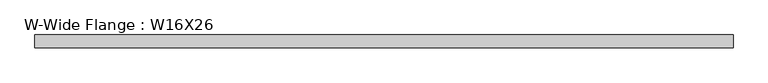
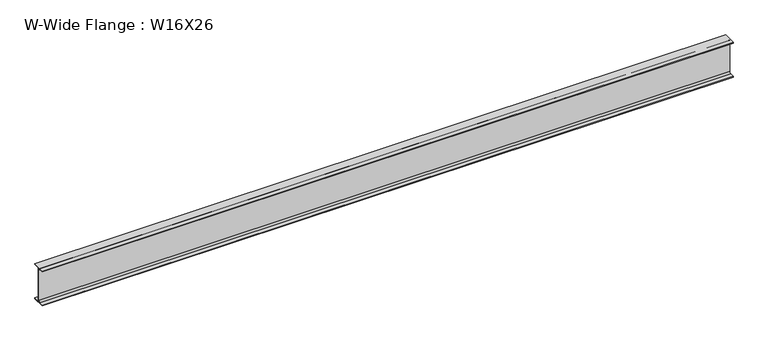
"""IFC4 building model written with IfcOpenShell, lengths in millimetres: beam geometry, W-Wide Flange : W16X26."""

import ifcopenshell
import ifcopenshell.guid

model = None  # the IFC model being written
_history = None  # IfcOwnerHistory: only IFC2X3 demands one
_inside = {}  # id of a spatial element -> (the spatial element, [elements in it])
_under = {}  # id of a project, library or spatial element -> (it, [spatial elements below it])
_declared = {}  # id of a project -> (the project, [libraries it declares])
_typed = {}  # id of a type object -> (the type object, [elements of that type])
_made_of = {}  # id of a material, layer set ... -> (it, [elements and type objects made of it])


def new_model(schema):
    """Start an empty IFC model of exactly this schema.

    Asked for "IFC4X3", IfcOpenShell would pick the latest addendum, in which some entities
    have other attributes; the version numbers below select the first issue.
    IFC2X3 requires an IfcOwnerHistory on every rooted entity: one is made here for all.
    """
    global model, _history
    if schema == "IFC4X3":
        model = ifcopenshell.file(schema_version=(4, 3, 0, 0))
    else:
        model = ifcopenshell.file(schema=schema)
    _inside.clear()
    _under.clear()
    _declared.clear()
    _typed.clear()
    _made_of.clear()
    _history = None
    if model.schema == "IFC2X3":
        org = make("IfcOrganization", Name="unknown")
        user = make(
            "IfcPersonAndOrganization",
            ThePerson=make("IfcPerson", FamilyName="unknown"),
            TheOrganization=org,
        )
        app = make(
            "IfcApplication",
            ApplicationDeveloper=org,
            Version="unknown",
            ApplicationFullName="unknown",
            ApplicationIdentifier="unknown",
        )
        _history = make(
            "IfcOwnerHistory",
            OwningUser=user,
            OwningApplication=app,
            ChangeAction="ADDED",
            CreationDate=0,
        )
    return model


def make(cls, **values):
    """One entity of the class cls with the attributes given. An attribute that is None is left unset."""
    return model.create_entity(
        cls, **{name: value for name, value in values.items() if value is not None}
    )


def rooted(cls, **values):
    """An entity with a GlobalId (a new one), such as an element, a storey or a relation."""
    return make(cls, GlobalId=ifcopenshell.guid.new(), OwnerHistory=_history, **values)


def si_unit(unit_type, name, prefix=None):
    """IfcSIUnit, for example si_unit("LENGTHUNIT", "METRE", prefix="MILLI")."""
    return make("IfcSIUnit", UnitType=unit_type, Prefix=prefix, Name=name)


def assignment(units):
    """IfcUnitAssignment: the units of a project."""
    return None if units is None else make("IfcUnitAssignment", Units=units)


def point(xyz):
    """IfcCartesianPoint."""
    return None if xyz is None else make("IfcCartesianPoint", Coordinates=xyz)


def direction(xyz):
    """IfcDirection."""
    return None if xyz is None else make("IfcDirection", DirectionRatios=xyz)


def frame(location, z_axis=None, x_axis=None):
    """IfcAxis2Placement3D, a coordinate frame: its origin and axes. An axis left out is left unset."""
    return make(
        "IfcAxis2Placement3D",
        Location=point(location),
        Axis=direction(z_axis),
        RefDirection=direction(x_axis),
    )


def frame_2d(location, x_axis=None):
    """IfcAxis2Placement2D, a coordinate frame in the plane: its origin and x axis."""
    return make(
        "IfcAxis2Placement2D", Location=point(location), RefDirection=direction(x_axis)
    )


def origin():
    """The frame at (0, 0, 0) with its axes left unset."""
    return frame((0.0, 0.0, 0.0))


def place(relative_to, where):
    """IfcLocalPlacement: puts the frame where relative to a parent placement (None: the world)."""
    return make(
        "IfcLocalPlacement", PlacementRelTo=relative_to, RelativePlacement=where
    )


def context(
    kind, dimensions, precision=None, world=None, true_north=None, identifier=None
):
    """IfcGeometricRepresentationContext, for example the 3D "Model" context."""
    return make(
        "IfcGeometricRepresentationContext",
        ContextIdentifier=identifier,
        ContextType=kind,
        CoordinateSpaceDimension=dimensions,
        Precision=precision,
        WorldCoordinateSystem=world,
        TrueNorth=true_north,
    )


def project(units=None, contexts=None):
    """IfcProject with its units and contexts."""
    return rooted(
        "IfcProject",
        Name="project",
        RepresentationContexts=contexts,
        UnitsInContext=assignment(units),
    )


def spatial(cls, under=None, at=None, **own):
    """A site, building, storey or space (cls), placed at a placement, below another one or the project."""
    s = rooted(cls, ObjectPlacement=at, **own)
    if under is not None:
        _under.setdefault(under.id(), (under, []))[1].append(s)
    return s


def polyline(points):
    """IfcPolyline through the points."""
    return make("IfcPolyline", Points=[point(p) for p in points])


def circle_curve(where, radius):
    """IfcCircle in the frame where."""
    return make("IfcCircle", Position=where, Radius=radius)


def trimmed(basis, trim1, trim2, sense, master):
    """IfcTrimmedCurve: the piece of a basis curve between two trims."""
    return make(
        "IfcTrimmedCurve",
        BasisCurve=basis,
        Trim1=trim1,
        Trim2=trim2,
        SenseAgreement=sense,
        MasterRepresentation=master,
    )


def segment(curve, same_sense, transition):
    """IfcCompositeCurveSegment."""
    return make(
        "IfcCompositeCurveSegment",
        Transition=transition,
        SameSense=same_sense,
        ParentCurve=curve,
    )


def composite_curve(segments, self_intersect=None):
    """IfcCompositeCurve: segments joined end to end."""
    return make("IfcCompositeCurve", Segments=segments, SelfIntersect=self_intersect)


def outline(outer, holes=None, kind="AREA"):
    """IfcArbitraryClosedProfileDef: a profile drawn as a closed curve; with holes, ...WithVoids."""
    if holes is None:
        return make("IfcArbitraryClosedProfileDef", ProfileType=kind, OuterCurve=outer)
    return make(
        "IfcArbitraryProfileDefWithVoids",
        ProfileType=kind,
        OuterCurve=outer,
        InnerCurves=holes,
    )


def extrude(swept, where, along, depth):
    """IfcExtrudedAreaSolid: the profile swept, set in the frame where, extruded along a direction by depth."""
    return make(
        "IfcExtrudedAreaSolid",
        SweptArea=swept,
        Position=where,
        ExtrudedDirection=direction(along),
        Depth=depth,
    )


def shape(context_of_items, identifier, shape_type, items):
    """IfcShapeRepresentation: the items that make up one representation, for example the "Body"."""
    return make(
        "IfcShapeRepresentation",
        ContextOfItems=context_of_items,
        RepresentationIdentifier=identifier,
        RepresentationType=shape_type,
        Items=items,
    )


def source(mapping_origin, context_of_items, identifier, shape_type, items):
    """IfcRepresentationMap: a shape defined once, which mapped items show again and again."""
    return make(
        "IfcRepresentationMap",
        MappingOrigin=mapping_origin,
        MappedRepresentation=shape(context_of_items, identifier, shape_type, items),
    )


def transform(
    local_origin,
    x_axis=None,
    y_axis=None,
    z_axis=None,
    scale=None,
    scale2=None,
    scale3=None,
    uniform=True,
):
    """IfcCartesianTransformationOperator3D, or its non-uniform kind. x_axis, y_axis, z_axis: its Axis1, 2, 3."""
    if uniform:
        return make(
            "IfcCartesianTransformationOperator3D",
            Axis1=direction(x_axis),
            Axis2=direction(y_axis),
            LocalOrigin=point(local_origin),
            Scale=scale,
            Axis3=direction(z_axis),
        )
    return make(
        "IfcCartesianTransformationOperator3DnonUniform",
        Axis1=direction(x_axis),
        Axis2=direction(y_axis),
        LocalOrigin=point(local_origin),
        Scale=scale,
        Axis3=direction(z_axis),
        Scale2=scale2,
        Scale3=scale3,
    )


def mapped(mapping_source, mapping_target):
    """IfcMappedItem: shows the shape of a source again, moved by a transform."""
    return make(
        "IfcMappedItem", MappingSource=mapping_source, MappingTarget=mapping_target
    )


def made_of(thing, what):
    """Note that an element or type object is made of a material, layer set ...; save() writes the relation."""
    if what is not None:
        _made_of.setdefault(what.id(), (what, []))[1].append(thing)
    return thing


def element(
    cls,
    number,
    at=None,
    inside=None,
    cuts=None,
    type_object=None,
    material=None,
    context=None,
    identifier="Body",
    shape_type=None,
    held_by="IfcProductDefinitionShape",
    body=None,
    shapes=None,
    **own,
):
    """One element of the class cls, such as IfcWall. Its Tag is "e" and its number.

    at: its placement. inside: the storey or other place that contains it. cuts: it is an
    opening in that element (IfcRelVoidsElement). A single representation is given by context,
    identifier, shape_type and body (its items); several are given by shapes. held_by: the class
    of the entity that holds the representations. save() writes the other relations.
    """
    e = rooted(cls, Tag="e%d" % number, ObjectPlacement=at, **own)
    if body is not None:
        shapes = [shape(context, identifier, shape_type, body)]
    if shapes is not None:
        e.Representation = make(held_by, Representations=shapes)
    if inside is not None:
        _inside.setdefault(inside.id(), (inside, []))[1].append(e)
    if cuts is not None:
        rooted(
            "IfcRelVoidsElement", RelatingBuildingElement=cuts, RelatedOpeningElement=e
        )
    if type_object is not None:
        _typed.setdefault(type_object.id(), (type_object, []))[1].append(e)
    return made_of(e, material)


def aggregate(whole, parts):
    """IfcRelAggregates: a whole, such as a stair, and the parts it consists of."""
    return rooted("IfcRelAggregates", RelatingObject=whole, RelatedObjects=parts)


def save(model, path):
    """Write the relations noted so far, then the file.

    IfcRelAggregates (storeys below a building ...), IfcRelContainedInSpatialStructure (elements
    in a storey), IfcRelDefinesByType, IfcRelAssociatesMaterial and IfcRelDeclares: one each for
    every whole, place, type object, material and project.
    """
    for whole, parts in _under.values():
        aggregate(whole, parts)
    for where, things in _inside.values():
        rooted(
            "IfcRelContainedInSpatialStructure",
            RelatedElements=things,
            RelatingStructure=where,
        )
    for kind, things in _typed.values():
        rooted("IfcRelDefinesByType", RelatedObjects=things, RelatingType=kind)
    for what, things in _made_of.values():
        rooted("IfcRelAssociatesMaterial", RelatedObjects=things, RelatingMaterial=what)
    for by, libraries in _declared.values():
        rooted("IfcRelDeclares", RelatingContext=by, RelatedDefinitions=libraries)
    model.write(path)


def w_wide_flange_w16x26_a9c838cc(model_context):
    return source(origin(), model_context, "Body", "SweptSolid", [
        extrude(outline(composite_curve([segment(polyline([(69.85, -190.627), (69.85, -199.39), (-69.85, -199.39), (-69.85, -190.627), (-21.3995, -190.627)]), True, "CONTINUOUS"), segment(trimmed(circle_curve(frame_2d((-21.3995, -172.4025)), 18.2245), [point((-21.3995, -190.627))], [point((-3.175, -172.4025))], True, "CARTESIAN"), True, "CONTINUOUS"), segment(polyline([(-3.175, -172.4025), (-3.175, 172.4025)]), True, "CONTINUOUS"), segment(trimmed(circle_curve(frame_2d((-21.3995, 172.4025)), 18.2245), [point((-3.175, 172.4025))], [point((-21.3995, 190.627))], True, "CARTESIAN"), True, "CONTINUOUS"), segment(polyline([(-21.3995, 190.627), (-69.85, 190.627), (-69.85, 199.39), (69.85, 199.39), (69.85, 190.627), (21.3995, 190.627)]), True, "CONTINUOUS"), segment(trimmed(circle_curve(frame_2d((21.3995, 172.4025)), 18.2245), [point((21.3995, 190.627))], [point((3.175, 172.4025))], True, "CARTESIAN"), True, "CONTINUOUS"), segment(polyline([(3.175, 172.4025), (3.175, -172.4025)]), True, "CONTINUOUS"), segment(trimmed(circle_curve(frame_2d((21.3995, -172.4025)), 18.2245), [point((3.175, -172.4025))], [point((21.3995, -190.627))], True, "CARTESIAN"), True, "CONTINUOUS"), segment(polyline([(21.3995, -190.627), (69.85, -190.627)]), True, "CONTINUOUS")], self_intersect=False)), frame((-3654.3753906, 0.0, 0.0), z_axis=(1.0, 0.0, 0.0), x_axis=(0.0, 1.0, 0.0)), (0.0, 0.0, 1.0), 7473.1066406),
    ])


if __name__ == "__main__":
    model = new_model("IFC4")
    model_context = context("Model", 3, world=origin())
    ifc_project = project(units=[si_unit("LENGTHUNIT", "METRE", prefix="MILLI")], contexts=[model_context])
    site = spatial("IfcSite", under=ifc_project)
    building = spatial("IfcBuilding", under=site)
    placement = place(None, origin())
    w_wide_flange_w16x26_shape = w_wide_flange_w16x26_a9c838cc(model_context)
    element("IfcBeam", 1, ObjectType="W-Wide Flange : W16X26", at=placement, inside=building, context=model_context, shape_type="MappedRepresentation", body=[
        mapped(w_wide_flange_w16x26_shape, transform((0.0, 0.0, 0.0), x_axis=(1.0, 0.0, 0.0), y_axis=(0.0, 1.0, 0.0), z_axis=(0.0, 0.0, 1.0))),
    ])
    save(model, "model.ifc")
